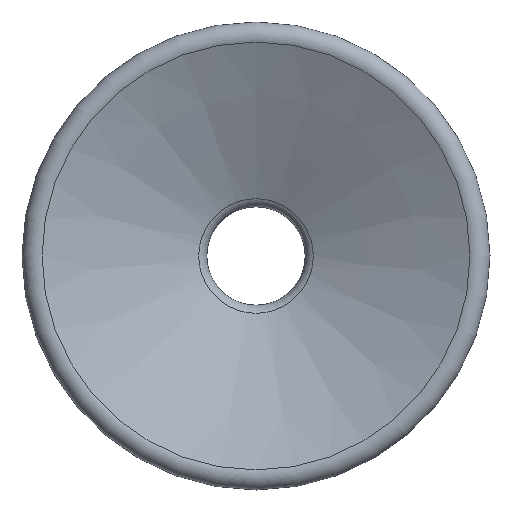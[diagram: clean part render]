
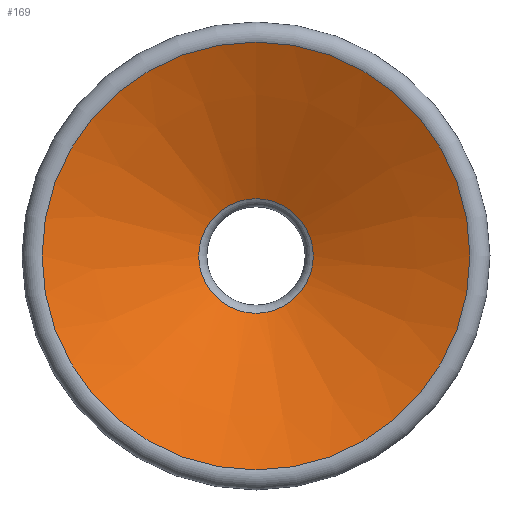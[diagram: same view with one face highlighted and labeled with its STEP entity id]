
A CAD part, front view. The second image highlights one B-rep face of the part: STEP entity #169.
In plain terms, the highlighted conical face has half-angle 65.466 degrees and reference radius 7.491 mm.
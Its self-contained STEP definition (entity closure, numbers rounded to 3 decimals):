
#19 = AXIS2_PLACEMENT_3D ( 'NONE', #352, #474, #73 ) ;
#32 = FACE_BOUND ( 'NONE', #393, .T. ) ;
#38 = FACE_OUTER_BOUND ( 'NONE', #211, .T. ) ;
#55 = CIRCLE ( 'NONE', #260, 2.007 ) ;
#73 = DIRECTION ( 'NONE',  ( 0., 0., -1. ) ) ;
#137 = CARTESIAN_POINT ( 'NONE',  ( 0., -9.025, 2.007 ) ) ;
#162 = CONICAL_SURFACE ( 'NONE', #19, 7.491, 1.143 ) ;
#169 = ADVANCED_FACE ( 'NONE', ( #32, #38 ), #162, .F. ) ;
#199 = VERTEX_POINT ( 'NONE', #271 ) ;
#211 = EDGE_LOOP ( 'NONE', ( #390 ) ) ;
#219 = CARTESIAN_POINT ( 'NONE',  ( 0., -11.528, 0. ) ) ;
#260 = AXIS2_PLACEMENT_3D ( 'NONE', #322, #329, #448 ) ;
#271 = CARTESIAN_POINT ( 'NONE',  ( 0., -11.528, 7.491 ) ) ;
#286 = DIRECTION ( 'NONE',  ( 0., 1., 0. ) ) ;
#291 = CIRCLE ( 'NONE', #349, 7.491 ) ;
#307 = EDGE_CURVE ( 'NONE', #455, #455, #55, .T. ) ;
#322 = CARTESIAN_POINT ( 'NONE',  ( 0., -9.025, 0. ) ) ;
#329 = DIRECTION ( 'NONE',  ( 0., 1., 0. ) ) ;
#346 = EDGE_CURVE ( 'NONE', #199, #199, #291, .T. ) ;
#349 = AXIS2_PLACEMENT_3D ( 'NONE', #219, #286, #484 ) ;
#352 = CARTESIAN_POINT ( 'NONE',  ( 0., -11.528, 0. ) ) ;
#390 = ORIENTED_EDGE ( 'NONE', *, *, #346, .F. ) ;
#393 = EDGE_LOOP ( 'NONE', ( #506 ) ) ;
#448 = DIRECTION ( 'NONE',  ( 0., 0., 1. ) ) ;
#455 = VERTEX_POINT ( 'NONE', #137 ) ;
#474 = DIRECTION ( 'NONE',  ( 0., -1., 0. ) ) ;
#484 = DIRECTION ( 'NONE',  ( 0., 0., 1. ) ) ;
#506 = ORIENTED_EDGE ( 'NONE', *, *, #307, .T. ) ;
